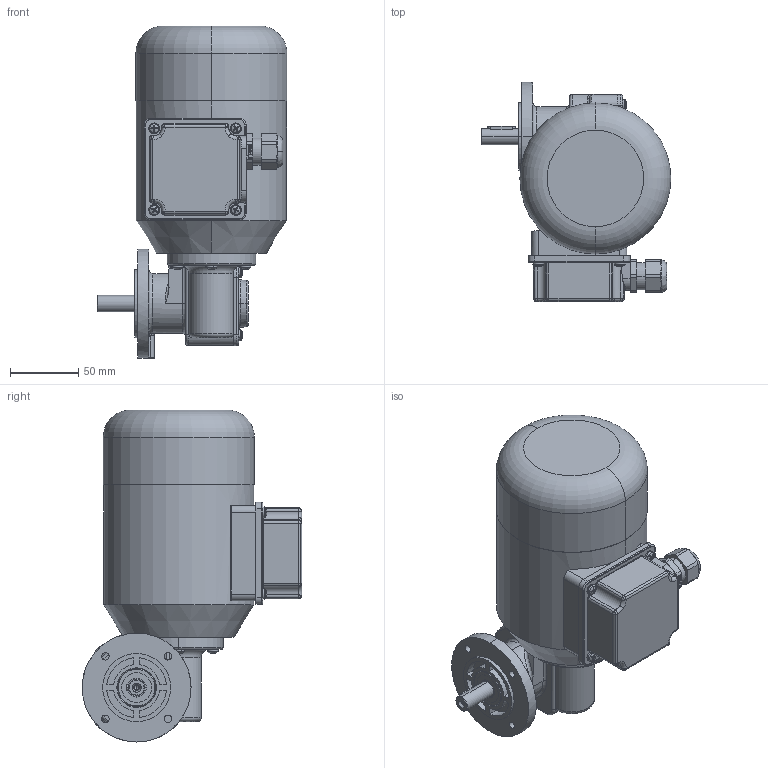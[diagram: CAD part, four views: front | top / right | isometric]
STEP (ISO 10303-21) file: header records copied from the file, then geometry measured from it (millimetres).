
FILE_DESCRIPTION (( 'STEP AP214' ), '1' );
FILE_NAME ('SN5FR_90W_Drehstrom-Motor_C.STEP', '2022-03-14T15:39:21', ( '' ), ( '' ), 'SwSTEP 2.0', 'SolidWorks 2019', '' );
FILE_SCHEMA (( 'AUTOMOTIVE_DESIGN' ));
Length unit declared in the file: millimetre
Products named in the file (10): pan head cross recess screw_din_DIN EN ISO 7045 - M4 x 12 - Z - 12C; NBR_WDR_12x28x7; SN5FR_90W_Drehstrom-Motor_C; pan head cross recess screw_din_DIN EN ISO 7045 - M4 x 16 - Z - 16C; SN5FR_3D_Export_Standard 05F-W-002; 05FR-G-001_3D_Export; PF_A4x4x20; 05F-W-002_3D_Export; 05-M-150 I 90W_1400Upm; 05FR-D-001_3D_Export
Assembly tree (14 placements, depth 3):
  SN5FR_90W_Drehstrom-Motor_C
    SN5FR_3D_Export_Standard 05F-W-002
      05FR-G-001_3D_Export
      05FR-D-001_3D_Export
      05F-W-002_3D_Export
      NBR_WDR_12x28x7
      PF_A4x4x20
      pan head cross recess screw_din_DIN EN ISO 7045 - M4 x 16 - Z - 16C  x3
      pan head cross recess screw_din_DIN EN ISO 7045 - M4 x 12 - Z - 12C  x4
    05-M-150 I 90W_1400Upm
Bounding box: 139.5 x 161.4 x 244 mm (x, y, z)
Volume: 1994016.9 mm3; surface area: 157595.8 mm2
Topology: 15 solids, 15 shells, 970 faces, 2463 edges, 1542 vertices
Faces by surface type: plane 336, cylinder 269, cone 144, torus 122, bspline 59, sphere 40
Entity records: 27333 total; most frequent: CARTESIAN_POINT 7488, DIRECTION 4158, ORIENTED_EDGE 4028, EDGE_CURVE 2014, AXIS2_PLACEMENT_3D 1675, VERTEX_POINT 1287, CIRCLE 916, EDGE_LOOP 879
